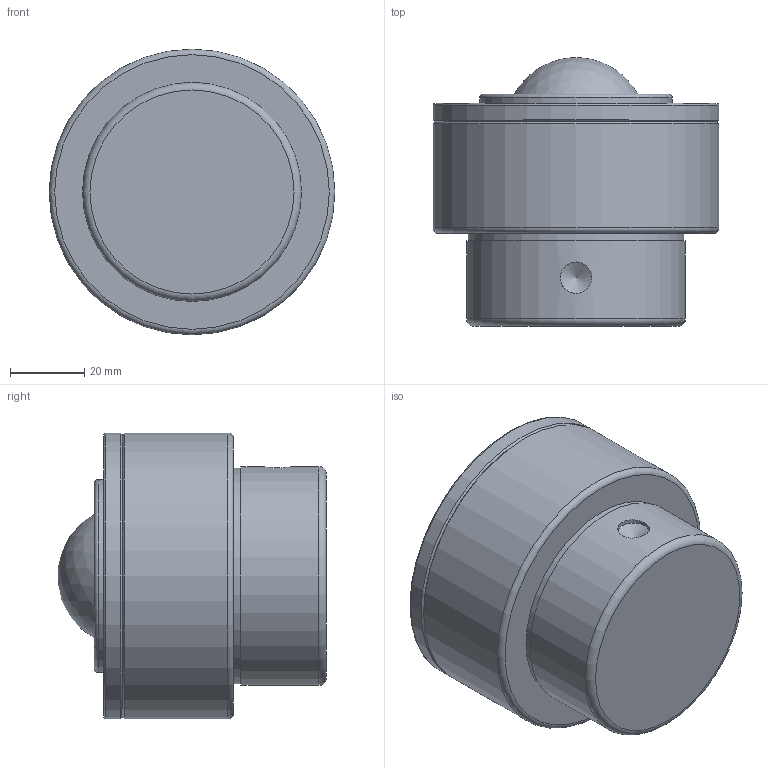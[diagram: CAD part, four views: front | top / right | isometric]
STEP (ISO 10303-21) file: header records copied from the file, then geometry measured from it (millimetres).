
FILE_DESCRIPTION(/* description */ ('','CAx-IF Rec.Pracs.---Representation and Presentation of Product Manufacturing Information (PMI)---4.0---2014-10-13'),/* implementation_level */ '2;1');
FILE_NAME(/* name */ '',/* time_stamp */ '2023-06-26T20:04:36+09:00',/* author */ ('torikawa'),/* organization */ (''),/* preprocessor_version */ 'ST-DEVELOPER v19.2',/* originating_system */ 'Autodesk Inventor 2023',/* authorisation */ '');
FILE_SCHEMA (('AP242_MANAGED_MODEL_BASED_3D_ENGINEERING_MIM_LF { 1 0 10303 442 1 1 4 }'));
Length unit declared in the file: millimetre
Products named in the file (1): 外観データstep用
Bounding box: 77 x 72.36 x 77 mm (x, y, z)
Volume: 240836.4 mm3; surface area: 23109.1 mm2
Topology: 1 solids, 1 shells, 67 faces, 161 edges, 106 vertices
Faces by surface type: plane 47, cylinder 9, cone 6, torus 4, sphere 1
Full cylindrical faces by diameter (mm): 8 x3, 8.5 x1, 52 x1, 58 x1, 59 x1, 77 x2
Entity records: 2324 total; most frequent: CARTESIAN_POINT 472, DIRECTION 367, ORIENTED_EDGE 320, EDGE_CURVE 160, LINE 123, VECTOR 123, AXIS2_PLACEMENT_3D 122, VERTEX_POINT 106
